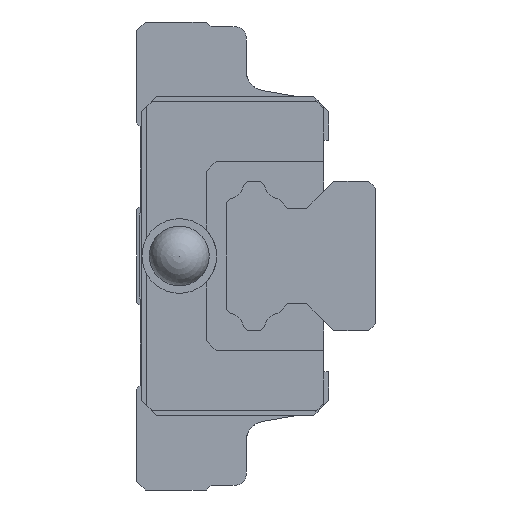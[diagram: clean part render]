
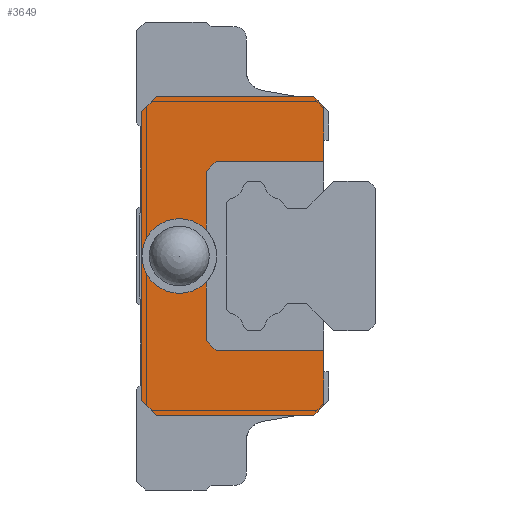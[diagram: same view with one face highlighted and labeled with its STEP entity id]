
A CAD part, left-side view. The second image highlights one B-rep face of the part: STEP entity #3649.
In plain terms, the highlighted planar face has unit normal (-1, 0, 0).
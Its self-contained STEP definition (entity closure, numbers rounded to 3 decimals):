
#119=CIRCLE('',#3956,2.);
#120=CIRCLE('',#3957,3.751);
#911=ORIENTED_EDGE('',*,*,#1604,.T.);
#912=ORIENTED_EDGE('',*,*,#1378,.T.);
#913=ORIENTED_EDGE('',*,*,#1605,.F.);
#914=ORIENTED_EDGE('',*,*,#1372,.T.);
#915=ORIENTED_EDGE('',*,*,#1606,.T.);
#916=ORIENTED_EDGE('',*,*,#1607,.T.);
#917=ORIENTED_EDGE('',*,*,#1485,.F.);
#918=ORIENTED_EDGE('',*,*,#1594,.T.);
#919=ORIENTED_EDGE('',*,*,#1396,.F.);
#920=ORIENTED_EDGE('',*,*,#1402,.F.);
#921=ORIENTED_EDGE('',*,*,#1471,.F.);
#922=ORIENTED_EDGE('',*,*,#1442,.F.);
#923=ORIENTED_EDGE('',*,*,#1426,.F.);
#924=ORIENTED_EDGE('',*,*,#1595,.T.);
#925=ORIENTED_EDGE('',*,*,#1491,.F.);
#926=ORIENTED_EDGE('',*,*,#1608,.T.);
#927=ORIENTED_EDGE('',*,*,#1609,.T.);
#1372=EDGE_CURVE('',#1850,#1851,#2194,.T.);
#1378=EDGE_CURVE('',#1857,#1856,#2200,.T.);
#1396=EDGE_CURVE('',#1872,#1873,#2216,.T.);
#1402=EDGE_CURVE('',#1877,#1872,#2222,.T.);
#1426=EDGE_CURVE('',#1896,#1894,#2246,.T.);
#1442=EDGE_CURVE('',#1894,#1910,#2260,.T.);
#1471=EDGE_CURVE('',#1910,#1877,#2289,.T.);
#1485=EDGE_CURVE('',#1939,#1940,#2303,.T.);
#1491=EDGE_CURVE('',#1945,#1946,#2309,.T.);
#1594=EDGE_CURVE('',#1939,#1873,#2376,.T.);
#1595=EDGE_CURVE('',#1896,#1946,#2377,.T.);
#1604=EDGE_CURVE('',#1997,#1997,#119,.T.);
#1605=EDGE_CURVE('',#1850,#1856,#120,.T.);
#1606=EDGE_CURVE('',#1851,#1998,#2384,.T.);
#1607=EDGE_CURVE('',#1998,#1940,#2385,.T.);
#1608=EDGE_CURVE('',#1945,#1999,#2386,.T.);
#1609=EDGE_CURVE('',#1999,#1857,#2387,.T.);
#1850=VERTEX_POINT('',#5417);
#1851=VERTEX_POINT('',#5418);
#1856=VERTEX_POINT('',#5429);
#1857=VERTEX_POINT('',#5431);
#1872=VERTEX_POINT('',#5465);
#1873=VERTEX_POINT('',#5467);
#1877=VERTEX_POINT('',#5477);
#1894=VERTEX_POINT('',#5521);
#1896=VERTEX_POINT('',#5525);
#1910=VERTEX_POINT('',#5558);
#1939=VERTEX_POINT('',#5638);
#1940=VERTEX_POINT('',#5640);
#1945=VERTEX_POINT('',#5651);
#1946=VERTEX_POINT('',#5653);
#1997=VERTEX_POINT('',#5918);
#1998=VERTEX_POINT('',#5921);
#1999=VERTEX_POINT('',#5924);
#2194=LINE('',#5416,#2592);
#2200=LINE('',#5430,#2598);
#2216=LINE('',#5466,#2614);
#2222=LINE('',#5478,#2620);
#2246=LINE('',#5526,#2644);
#2260=LINE('',#5557,#2658);
#2289=LINE('',#5612,#2687);
#2303=LINE('',#5639,#2701);
#2309=LINE('',#5652,#2707);
#2376=LINE('',#5899,#2774);
#2377=LINE('',#5901,#2775);
#2384=LINE('',#5920,#2782);
#2385=LINE('',#5922,#2783);
#2386=LINE('',#5923,#2784);
#2387=LINE('',#5925,#2785);
#2592=VECTOR('',#4346,1000.);
#2598=VECTOR('',#4354,1000.);
#2614=VECTOR('',#4378,1000.);
#2620=VECTOR('',#4386,1000.);
#2644=VECTOR('',#4420,1000.);
#2658=VECTOR('',#4442,1000.);
#2687=VECTOR('',#4485,1000.);
#2701=VECTOR('',#4503,1000.);
#2707=VECTOR('',#4511,1000.);
#2774=VECTOR('',#4762,1000.);
#2775=VECTOR('',#4765,1000.);
#2782=VECTOR('',#4788,1000.);
#2783=VECTOR('',#4789,1000.);
#2784=VECTOR('',#4790,1000.);
#2785=VECTOR('',#4791,1000.);
#3027=EDGE_LOOP('',(#911));
#3028=EDGE_LOOP('',(#912,#913,#914,#915,#916,#917,#918,#919,#920,#921,#922,
#923,#924,#925,#926,#927));
#3285=FACE_BOUND('',#3027,.T.);
#3286=FACE_BOUND('',#3028,.T.);
#3469=PLANE('',#3955);
#3649=ADVANCED_FACE('',(#3285,#3286),#3469,.F.);
#3955=AXIS2_PLACEMENT_3D('',#5916,#4782,#4783);
#3956=AXIS2_PLACEMENT_3D('',#5917,#4784,#4785);
#3957=AXIS2_PLACEMENT_3D('',#5919,#4786,#4787);
#4346=DIRECTION('',(0.,0.,1.));
#4354=DIRECTION('',(0.,0.,1.));
#4378=DIRECTION('',(0.,-1.,0.));
#4386=DIRECTION('',(0.,-0.707,0.707));
#4420=DIRECTION('',(0.,1.,0.));
#4442=DIRECTION('',(0.,0.707,0.707));
#4485=DIRECTION('',(0.,0.,1.));
#4503=DIRECTION('',(0.,0.,-1.));
#4511=DIRECTION('',(0.,0.,-1.));
#4762=DIRECTION('',(0.,0.707,0.707));
#4765=DIRECTION('',(0.,-0.707,0.707));
#4782=DIRECTION('',(1.,0.,0.));
#4783=DIRECTION('',(0.,0.,-1.));
#4784=DIRECTION('',(1.,0.,0.));
#4785=DIRECTION('',(0.,0.,-1.));
#4786=DIRECTION('',(1.,0.,0.));
#4787=DIRECTION('',(0.,0.,-1.));
#4788=DIRECTION('',(0.,-0.707,0.707));
#4789=DIRECTION('',(0.,-1.,0.));
#4790=DIRECTION('',(0.,1.,0.));
#4791=DIRECTION('',(0.,0.707,0.707));
#5416=CARTESIAN_POINT('',(-26.3,12.3,-8.5));
#5417=CARTESIAN_POINT('',(-26.3,12.3,2.604));
#5418=CARTESIAN_POINT('',(-26.3,12.3,8.5));
#5429=CARTESIAN_POINT('',(-26.3,12.3,-2.604));
#5430=CARTESIAN_POINT('',(-26.3,12.3,-8.5));
#5431=CARTESIAN_POINT('',(-26.3,12.3,-8.5));
#5465=CARTESIAN_POINT('',(-26.3,17.3,16.));
#5466=CARTESIAN_POINT('',(-26.3,19.3,16.));
#5467=CARTESIAN_POINT('',(-26.3,1.5,16.));
#5477=CARTESIAN_POINT('',(-26.3,18.8,14.5));
#5478=CARTESIAN_POINT('',(-26.3,18.8,14.5));
#5521=CARTESIAN_POINT('',(-26.3,17.3,-16.));
#5525=CARTESIAN_POINT('',(-26.3,1.5,-16.));
#5526=CARTESIAN_POINT('',(-26.3,0.,-16.));
#5557=CARTESIAN_POINT('',(-26.3,17.3,-16.));
#5558=CARTESIAN_POINT('',(-26.3,18.8,-14.5));
#5612=CARTESIAN_POINT('',(-26.3,18.8,-14.5));
#5638=CARTESIAN_POINT('',(-26.3,0.5,15.));
#5639=CARTESIAN_POINT('',(-26.3,0.5,11.6));
#5640=CARTESIAN_POINT('',(-26.3,0.5,9.5));
#5651=CARTESIAN_POINT('',(-26.3,0.5,-9.5));
#5652=CARTESIAN_POINT('',(-26.3,0.5,11.6));
#5653=CARTESIAN_POINT('',(-26.3,0.5,-15.));
#5899=CARTESIAN_POINT('',(-26.3,1.5,16.));
#5901=CARTESIAN_POINT('',(-26.3,0.5,-15.));
#5916=CARTESIAN_POINT('',(-26.3,0.,0.));
#5917=CARTESIAN_POINT('',(-26.3,15.,0.));
#5918=CARTESIAN_POINT('',(-26.3,15.,-2.));
#5919=CARTESIAN_POINT('',(-26.3,15.,0.));
#5920=CARTESIAN_POINT('',(-26.3,12.3,8.5));
#5921=CARTESIAN_POINT('',(-26.3,11.3,9.5));
#5922=CARTESIAN_POINT('',(-26.3,11.3,9.5));
#5923=CARTESIAN_POINT('',(-26.3,0.5,-9.5));
#5924=CARTESIAN_POINT('',(-26.3,11.3,-9.5));
#5925=CARTESIAN_POINT('',(-26.3,11.3,-9.5));
